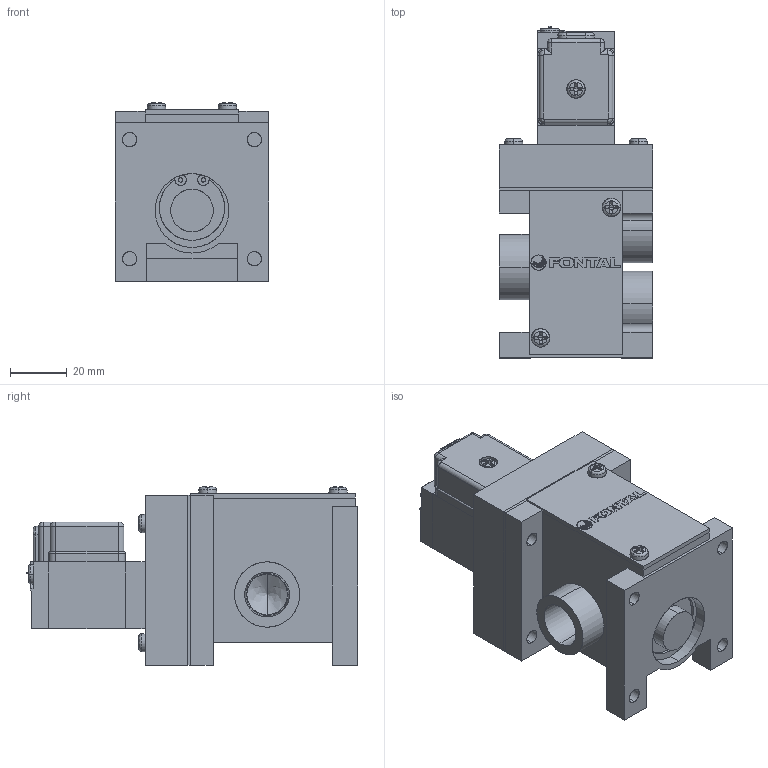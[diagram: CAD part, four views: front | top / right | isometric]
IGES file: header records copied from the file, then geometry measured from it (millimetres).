
Start section: SolidWorks IGES file using analytic representation for surfaces
Global section: file name: C:\Users\Toshiba\Desktop\PMS2308#-03-#G#.IGS; native system: SolidWorks 2014; preprocessor: SolidWorks 2014; author: Toshiba; date: 160122.114526; units: millimetre
Bounding box: 54 x 116.97 x 63.05 mm (x, y, z)
Surface area: 62584.9 mm2 (no closed solid volume)
Topology: 0 solids, 0 shells, 663 faces, 7060 edges, 7035 vertices
Faces by surface type: bspline 397, revolution 266
